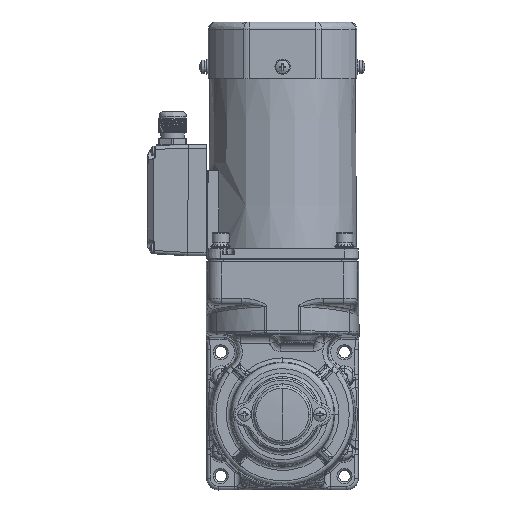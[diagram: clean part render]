
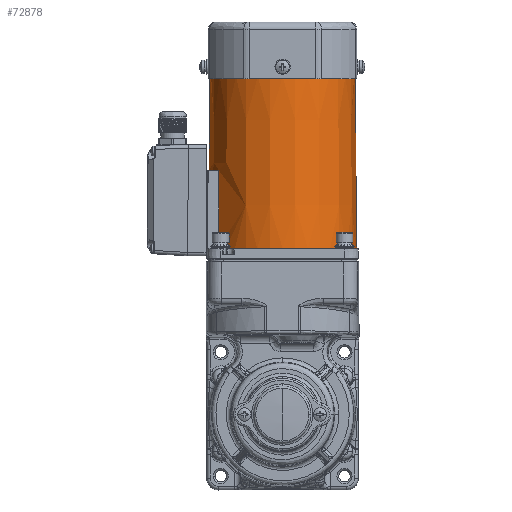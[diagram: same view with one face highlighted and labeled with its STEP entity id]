
A CAD part, left-side view. The second image highlights one B-rep face of the part: STEP entity #72878.
In plain terms, the highlighted conical face has half-angle 0.5 degrees and reference radius 44 mm.
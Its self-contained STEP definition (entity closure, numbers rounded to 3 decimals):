
#792 = CARTESIAN_POINT ( 'NONE',  ( -0.958, -14.105, 132.5 ) ) ;
#983 = CARTESIAN_POINT ( 'NONE',  ( 36.93, 7.459, 178.837 ) ) ;
#2745 = EDGE_CURVE ( 'NONE', #35624, #117775, #12660, .T. ) ;
#3192 = CARTESIAN_POINT ( 'NONE',  ( -44.958, -14.105, 132.5 ) ) ;
#5439 = CARTESIAN_POINT ( 'NONE',  ( -0.958, -14.105, 234.5 ) ) ;
#7156 = AXIS2_PLACEMENT_3D ( 'NONE', #69157, #60060, #34120 ) ;
#9959 = EDGE_CURVE ( 'NONE', #108867, #38185, #58998, .T. ) ;
#11050 = CIRCLE ( 'NONE', #7156, 43.594 ) ;
#11259 = CARTESIAN_POINT ( 'NONE',  ( 36.991, 7.352, 178.956 ) ) ;
#12660 = B_SPLINE_CURVE_WITH_KNOTS ( 'NONE', 3,
 ( #93824, #20899, #102263, #983, #75733, #101669, #46780, #74552, #65484, #28714, #20289, #110110, #11259, #75146, #83604, #73362 ),
 .UNSPECIFIED., .F., .F.,
 ( 4, 2, 2, 1, 1, 2, 2, 2, 4 ),
 ( 0., 0.25, 0.375, 0.437, 0.469, 0.484, 0.5, 0.75, 1. ),
 .UNSPECIFIED. ) ;
#16596 = VERTEX_POINT ( 'NONE', #105559 ) ;
#16872 = CARTESIAN_POINT ( 'NONE',  ( 37.069, 7.76, 147.901 ) ) ;
#18203 = DIRECTION ( 'NONE',  ( 0.009, 0., -1. ) ) ;
#19707 = LINE ( 'NONE', #29881, #93351 ) ;
#20089 = FACE_OUTER_BOUND ( 'NONE', #98459, .T. ) ;
#20289 = CARTESIAN_POINT ( 'NONE',  ( 36.965, 7.397, 178.919 ) ) ;
#20899 = CARTESIAN_POINT ( 'NONE',  ( 36.913, 7.491, 178.741 ) ) ;
#21011 = EDGE_CURVE ( 'NONE', #113367, #31704, #41939, .T. ) ;
#21468 = ORIENTED_EDGE ( 'NONE', *, *, #21011, .T. ) ;
#26719 = CARTESIAN_POINT ( 'NONE',  ( 36.913, 7.492, 178.703 ) ) ;
#28714 = CARTESIAN_POINT ( 'NONE',  ( 36.963, 7.399, 178.916 ) ) ;
#28741 = CARTESIAN_POINT ( 'NONE',  ( -0.958, -14.105, 132.5 ) ) ;
#29881 = CARTESIAN_POINT ( 'NONE',  ( -44.958, -14.105, 132.5 ) ) ;
#31704 = VERTEX_POINT ( 'NONE', #3192 ) ;
#33975 = AXIS2_PLACEMENT_3D ( 'NONE', #5439, #94666, #104878 ) ;
#34120 = DIRECTION ( 'NONE',  ( -1., 0., 0. ) ) ;
#34616 = CONICAL_SURFACE ( 'NONE', #94285, 44., 0.009 ) ;
#34968 = EDGE_CURVE ( 'NONE', #16596, #117775, #11050, .T. ) ;
#35624 = VERTEX_POINT ( 'NONE', #26719 ) ;
#35658 = LINE ( 'NONE', #73061, #115336 ) ;
#36827 = ORIENTED_EDGE ( 'NONE', *, *, #111083, .T. ) ;
#37555 = DIRECTION ( 'NONE',  ( -1., 0., 0. ) ) ;
#38185 = VERTEX_POINT ( 'NONE', #79233 ) ;
#41939 = CIRCLE ( 'NONE', #65091, 44. ) ;
#42982 = ORIENTED_EDGE ( 'NONE', *, *, #45982, .T. ) ;
#45982 = EDGE_CURVE ( 'NONE', #38185, #16596, #35658, .T. ) ;
#46780 = CARTESIAN_POINT ( 'NONE',  ( 36.951, 7.422, 178.893 ) ) ;
#48149 = CARTESIAN_POINT ( 'NONE',  ( 37.147, 7.895, 132.5 ) ) ;
#50925 = ORIENTED_EDGE ( 'NONE', *, *, #34968, .T. ) ;
#51204 = CARTESIAN_POINT ( 'NONE',  ( 36.991, 7.626, 163.302 ) ) ;
#57752 = ORIENTED_EDGE ( 'NONE', *, *, #9959, .T. ) ;
#58998 = CIRCLE ( 'NONE', #33975, 43.11 ) ;
#60060 = DIRECTION ( 'NONE',  ( 0., 0., 1. ) ) ;
#62376 = EDGE_CURVE ( 'NONE', #108867, #31704, #19707, .T. ) ;
#64398 = B_SPLINE_CURVE_WITH_KNOTS ( 'NONE', 3,
 ( #98238, #51204, #16872, #116927 ),
 .UNSPECIFIED., .F., .F.,
 ( 4, 4 ),
 ( 0., 0.046 ),
 .UNSPECIFIED. ) ;
#64840 = CARTESIAN_POINT ( 'NONE',  ( -44.068, -14.105, 234.5 ) ) ;
#65091 = AXIS2_PLACEMENT_3D ( 'NONE', #28741, #81829, #110142 ) ;
#65484 = CARTESIAN_POINT ( 'NONE',  ( 36.961, 7.403, 178.913 ) ) ;
#66470 = DIRECTION ( 'NONE',  ( 0., 0., -1. ) ) ;
#69157 = CARTESIAN_POINT ( 'NONE',  ( -0.958, -14.105, 179. ) ) ;
#72878 = ADVANCED_FACE ( 'NONE', ( #20089 ), #34616, .T. ) ;
#73061 = CARTESIAN_POINT ( 'NONE',  ( 43.042, -14.105, 132.5 ) ) ;
#73362 = CARTESIAN_POINT ( 'NONE',  ( 37.08, 7.192, 179. ) ) ;
#74552 = CARTESIAN_POINT ( 'NONE',  ( 36.958, 7.409, 178.907 ) ) ;
#75146 = CARTESIAN_POINT ( 'NONE',  ( 37.029, 7.284, 178.988 ) ) ;
#75733 = CARTESIAN_POINT ( 'NONE',  ( 36.936, 7.449, 178.855 ) ) ;
#79233 = CARTESIAN_POINT ( 'NONE',  ( 42.151, -14.105, 234.5 ) ) ;
#81829 = DIRECTION ( 'NONE',  ( 0., 0., 1. ) ) ;
#83604 = CARTESIAN_POINT ( 'NONE',  ( 37.052, 7.241, 179. ) ) ;
#88681 = ORIENTED_EDGE ( 'NONE', *, *, #2745, .F. ) ;
#89431 = ORIENTED_EDGE ( 'NONE', *, *, #62376, .F. ) ;
#91842 = CARTESIAN_POINT ( 'NONE',  ( 37.08, 7.192, 179. ) ) ;
#93351 = VECTOR ( 'NONE', #112487, 1000. ) ;
#93824 = CARTESIAN_POINT ( 'NONE',  ( 36.913, 7.492, 178.703 ) ) ;
#94285 = AXIS2_PLACEMENT_3D ( 'NONE', #792, #66470, #37555 ) ;
#94666 = DIRECTION ( 'NONE',  ( 0., 0., -1. ) ) ;
#98238 = CARTESIAN_POINT ( 'NONE',  ( 36.913, 7.492, 178.703 ) ) ;
#98459 = EDGE_LOOP ( 'NONE', ( #57752, #42982, #50925, #88681, #36827, #21468, #89431 ) ) ;
#101669 = CARTESIAN_POINT ( 'NONE',  ( 36.946, 7.431, 178.881 ) ) ;
#102263 = CARTESIAN_POINT ( 'NONE',  ( 36.917, 7.483, 178.78 ) ) ;
#104878 = DIRECTION ( 'NONE',  ( -1., 0., 0. ) ) ;
#105559 = CARTESIAN_POINT ( 'NONE',  ( 42.636, -14.105, 179. ) ) ;
#108867 = VERTEX_POINT ( 'NONE', #64840 ) ;
#110110 = CARTESIAN_POINT ( 'NONE',  ( 36.976, 7.377, 178.937 ) ) ;
#110142 = DIRECTION ( 'NONE',  ( -1., 0., 0. ) ) ;
#111083 = EDGE_CURVE ( 'NONE', #35624, #113367, #64398, .T. ) ;
#112487 = DIRECTION ( 'NONE',  ( -0.009, 0., -1. ) ) ;
#113367 = VERTEX_POINT ( 'NONE', #48149 ) ;
#115336 = VECTOR ( 'NONE', #18203, 1000. ) ;
#116927 = CARTESIAN_POINT ( 'NONE',  ( 37.147, 7.895, 132.5 ) ) ;
#117775 = VERTEX_POINT ( 'NONE', #91842 ) ;
